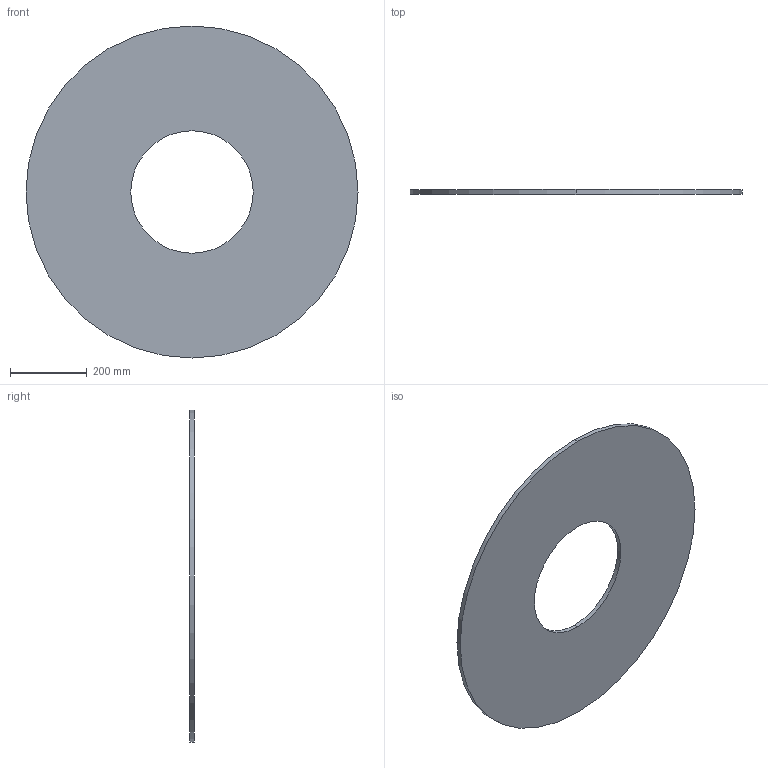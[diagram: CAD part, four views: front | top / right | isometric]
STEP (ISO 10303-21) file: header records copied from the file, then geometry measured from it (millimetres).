
FILE_DESCRIPTION (( 'STEP AP203' ), '1' );
FILE_NAME ('3D_R152_DN273_17305305.STEP', '2024-08-13T08:02:18', ( '' ), ( '' ), 'SwSTEP 2.0', 'SolidWorks 2024', '' );
FILE_SCHEMA (( 'CONFIG_CONTROL_DESIGN' ));
Length unit declared in the file: millimetre
Products named in the file (1): 3D_R152_DN273_17305305
Bounding box: 868 x 12 x 868 mm (x, y, z)
Volume: 6135756.6 mm3; surface area: 1067412.7 mm2
Topology: 1 solids, 1 shells, 6 faces, 12 edges, 8 vertices
Faces by surface type: cylinder 4, plane 2
Entity records: 245 total; most frequent: DIRECTION 34, CARTESIAN_POINT 27, ORIENTED_EDGE 24, AXIS2_PLACEMENT_3D 15, EDGE_CURVE 12, CIRCLE 8, EDGE_LOOP 8, PERSON_AND_ORGANIZATION 8
